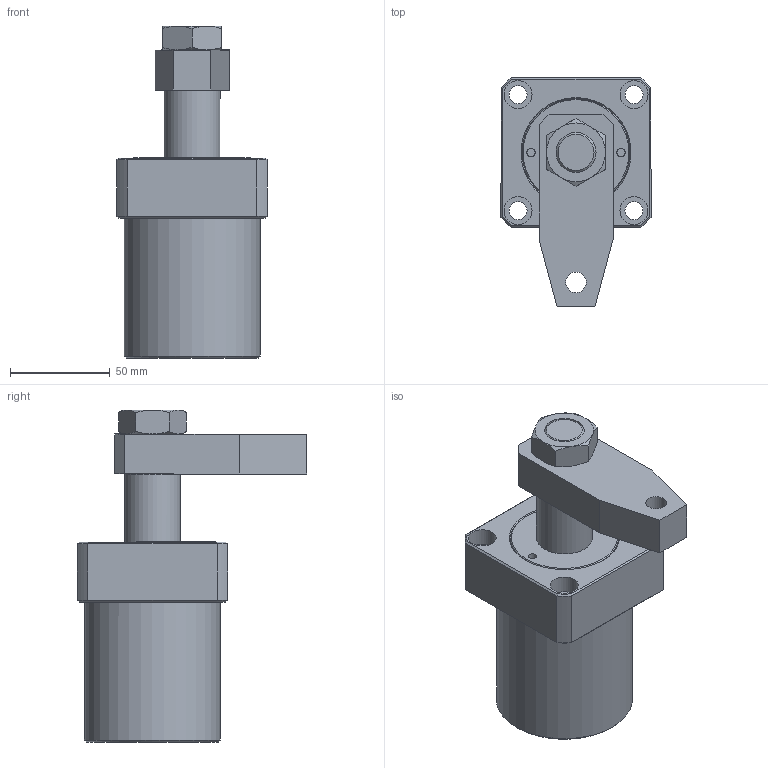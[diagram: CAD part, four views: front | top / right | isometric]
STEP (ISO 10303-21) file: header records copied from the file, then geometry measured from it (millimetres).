
FILE_DESCRIPTION(/* description */ ('Unknown'),/* implementation_level */ '2;1');
FILE_NAME(/* name */ 'HSC-FA50S-A',/* time_stamp */ '2019-05-20T16:00:19+08:00',/* author */ ('Unknown'),/* organization */ ('Unknown'),/* preprocessor_version */ 'ST-DEVELOPER v16.7',/* originating_system */ 'DEX',/* authorisation */ $);
FILE_SCHEMA (('AUTOMOTIVE_DESIGN {1 0 10303 214 3 1 1}'));
Length unit declared in the file: millimetre
Products named in the file (4): HSC-FA50S-A; HSC-FA50S-CYLINDER; HSC-5002-S-AXLE CENTRE; HSC-50S-A
Assembly tree (3 placements, depth 2):
  HSC-FA50S-A
    HSC-FA50S-CYLINDER
    HSC-5002-S-AXLE CENTRE
    HSC-50S-A
Bounding box: 75 x 114.5 x 166 mm (x, y, z)
Volume: 440579.1 mm3; surface area: 80492.1 mm2
Topology: 3 solids, 3 shells, 105 faces, 220 edges, 138 vertices
Faces by surface type: plane 49, cone 28, cylinder 25, torus 3
Full cylindrical faces by diameter (mm): 4.1 x2, 9 x4, 10.3 x1, 12.301 x2, 14 x4, 20 x2, 21 x1, 28 x2, 50 x2, 68 x1
Entity records: 3414 total; most frequent: CARTESIAN_POINT 537, DIRECTION 438, ORIENTED_EDGE 354, AXIS2_PLACEMENT_3D 192, EDGE_CURVE 177, EDGE_LOOP 166, FACE_BOUND 166, VERTEX_POINT 127
